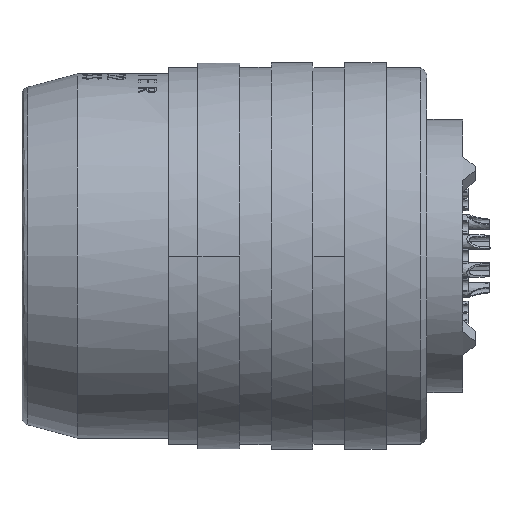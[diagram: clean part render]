
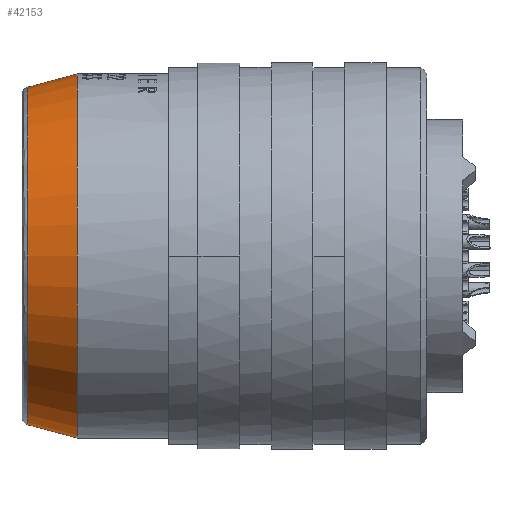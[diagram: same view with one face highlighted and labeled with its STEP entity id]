
A CAD part, front view. The second image highlights one B-rep face of the part: STEP entity #42153.
In plain terms, the highlighted free-form (B-spline) face has degree [1, 3] with [2, 4] control points.
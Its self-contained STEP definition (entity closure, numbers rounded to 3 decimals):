
#374 = AXIS2_PLACEMENT_3D ( 'NONE', #35661, #11900, #26156 ) ;
#2773 = CARTESIAN_POINT ( 'NONE',  ( -2.014, 0., -9.218 ) ) ;
#3308 = VERTEX_POINT ( 'NONE', #8652 ) ;
#3361 = ORIENTED_EDGE ( 'NONE', *, *, #28990, .T. ) ;
#4223 = DIRECTION ( 'NONE',  ( 0., 0., -1. ) ) ;
#5450 = ORIENTED_EDGE ( 'NONE', *, *, #19447, .T. ) ;
#5899 = CARTESIAN_POINT ( 'NONE',  ( 0.68, 0., -9.94 ) ) ;
#8652 = CARTESIAN_POINT ( 'NONE',  ( 0.68, 0., 9.94 ) ) ;
#9210 = CARTESIAN_POINT ( 'NONE',  ( -0.667, 0., -9.579 ) ) ;
#9557 = CARTESIAN_POINT ( 'NONE',  ( -0.667, 0., 9.579 ) ) ;
#11900 = DIRECTION ( 'NONE',  ( -1., 0., 0. ) ) ;
#14067 = CIRCLE ( 'NONE', #374, 9.218 ) ;
#14855 = DIRECTION ( 'NONE',  ( 1., 0., 0. ) ) ;
#16244 = LINE ( 'NONE', #9210, #26394 ) ;
#16345 = EDGE_LOOP ( 'NONE', ( #40208, #3361, #5450, #34738 ) ) ;
#17869 = VERTEX_POINT ( 'NONE', #36722 ) ;
#19229 = DIRECTION ( 'NONE',  ( -0.966, 0., 0.259 ) ) ;
#19447 = EDGE_CURVE ( 'NONE', #3308, #41721, #29912, .T. ) ;
#20847 = EDGE_CURVE ( 'NONE', #21165, #17869, #14067, .T. ) ;
#21165 = VERTEX_POINT ( 'NONE', #2773 ) ;
#21642 = CARTESIAN_POINT ( 'NONE',  ( 0.68, 0., 0. ) ) ;
#22248 = CARTESIAN_POINT ( 'NONE',  ( 0.68, -19.88, 9.94 ) ) ;
#23504 = CARTESIAN_POINT ( 'NONE',  ( -2.014, 0., 9.218 ) ) ;
#23774 = EDGE_CURVE ( 'NONE', #41721, #21165, #16244, .T. ) ;
#24153 =( BOUNDED_SURFACE ( )  B_SPLINE_SURFACE ( 1, 3, ( 
 ( #23504, #29504, #39671, #36262 ),
 ( #39883, #22248, #30336, #43302 ) ),
 .UNSPECIFIED., .F., .F., .T. ) 
 B_SPLINE_SURFACE_WITH_KNOTS ( ( 2, 2 ),
 ( 4, 4 ),
 ( 0., 1. ),
 ( 0., 1. ),
 .UNSPECIFIED. ) 
 GEOMETRIC_REPRESENTATION_ITEM ( )  RATIONAL_B_SPLINE_SURFACE ( (
 ( 1., 0.333, 0.333, 1.),
 ( 1., 0.333, 0.333, 1.) ) ) 
 REPRESENTATION_ITEM ( '' )  SURFACE ( )  );
#25157 = FACE_OUTER_BOUND ( 'NONE', #16345, .T. ) ;
#26156 = DIRECTION ( 'NONE',  ( 0., 0., -1. ) ) ;
#26394 = VECTOR ( 'NONE', #19229, 1000. ) ;
#28990 = EDGE_CURVE ( 'NONE', #17869, #3308, #40606, .T. ) ;
#29504 = CARTESIAN_POINT ( 'NONE',  ( -2.014, -18.436, 9.218 ) ) ;
#29912 = CIRCLE ( 'NONE', #42935, 9.94 ) ;
#30336 = CARTESIAN_POINT ( 'NONE',  ( 0.68, -19.88, -9.94 ) ) ;
#34339 = VECTOR ( 'NONE', #44000, 1000. ) ;
#34738 = ORIENTED_EDGE ( 'NONE', *, *, #23774, .T. ) ;
#35661 = CARTESIAN_POINT ( 'NONE',  ( -2.014, 0., 0. ) ) ;
#36262 = CARTESIAN_POINT ( 'NONE',  ( -2.014, 0., -9.218 ) ) ;
#36722 = CARTESIAN_POINT ( 'NONE',  ( -2.014, 0., 9.218 ) ) ;
#39671 = CARTESIAN_POINT ( 'NONE',  ( -2.014, -18.436, -9.218 ) ) ;
#39883 = CARTESIAN_POINT ( 'NONE',  ( 0.68, 0., 9.94 ) ) ;
#40208 = ORIENTED_EDGE ( 'NONE', *, *, #20847, .T. ) ;
#40606 = LINE ( 'NONE', #9557, #34339 ) ;
#41721 = VERTEX_POINT ( 'NONE', #5899 ) ;
#42153 = ADVANCED_FACE ( 'NONE', ( #25157 ), #24153, .T. ) ;
#42935 = AXIS2_PLACEMENT_3D ( 'NONE', #21642, #14855, #4223 ) ;
#43302 = CARTESIAN_POINT ( 'NONE',  ( 0.68, 0., -9.94 ) ) ;
#44000 = DIRECTION ( 'NONE',  ( 0.966, 0., 0.259 ) ) ;
